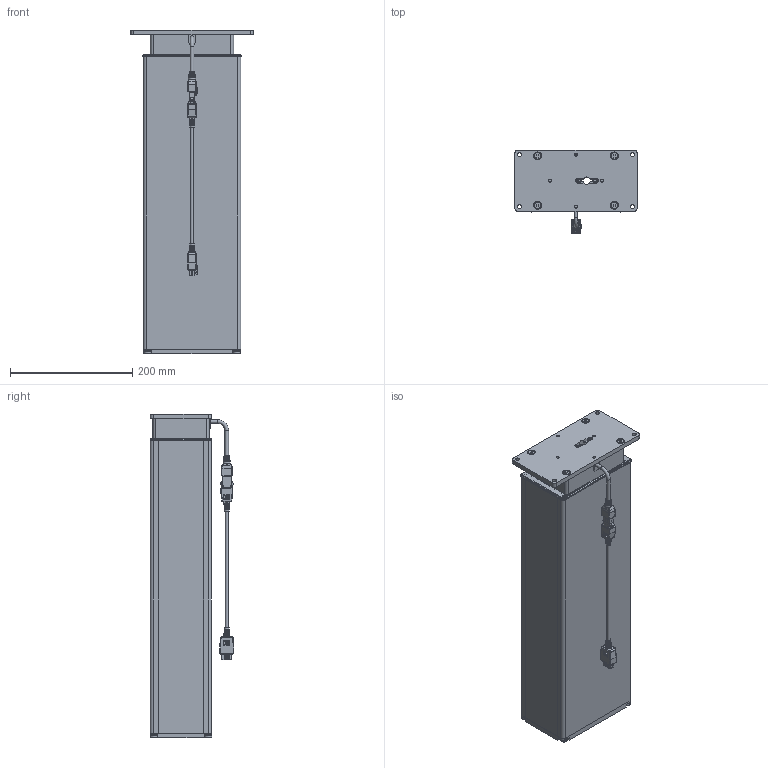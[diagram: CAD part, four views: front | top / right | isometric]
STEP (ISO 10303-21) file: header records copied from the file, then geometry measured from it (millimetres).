
FILE_DESCRIPTION(/* description */ ('Unknown'),/* implementation_level */ '2;1');
FILE_NAME(/* name */ '911.00113_01-eingefahren',/* time_stamp */ '2026-03-27T08:03:36+01:00',/* author */ ('Unknown'),/* organization */ ('Unknown'),/* preprocessor_version */ 'ST-DEVELOPER v20',/* originating_system */ 'Solid Edge',/* authorisation */ 'Unknown');
FILE_SCHEMA (('AUTOMOTIVE_DESIGN {1 0 10303 214 3 1 1}'));
Length unit declared in the file: millimetre
Products named in the file (16): 911.00113; 126.00191; 119.00588; 119.00579; 126.00193; 124.00201_oa_0; 115.00200_oa_1; 110.00113_oa_2; 142.00303; 142.00241; 142.00154; 142.00039; 128.00078; Kabel Motor Sx; 119.00578; 124.00151
Assembly tree (25 placements, depth 2):
  911.00113
    126.00191
    119.00588  x2
    119.00579  x2
    126.00193
    124.00201_oa_0
    115.00200_oa_1
    110.00113_oa_2
    142.00303  x4
    142.00241  x2
    142.00154  x4
    142.00039  x2
    128.00078
    Kabel Motor Sx
    119.00578
    124.00151
Bounding box: 200 x 137.17 x 530 mm (x, y, z)
Volume: 2432527.7 mm3; surface area: 1290273.2 mm2
Topology: 22 solids, 22 shells, 1679 faces, 4386 edges, 2873 vertices
Faces by surface type: plane 1015, cylinder 450, torus 109, bspline 72, cone 27, sphere 6
Full cylindrical faces by diameter (mm): 1.5 x6, 1.82 x6, 2 x4, 2.7 x6, 4 x2, 4.917 x4, 5 x3, 5.5 x2, 6 x11, 6.2 x4, 6.5 x4, 6.6 x4, 6.647 x4, 7 x2, 10 x2, 12 x4, 21 x1
Entity records: 57652 total; most frequent: CARTESIAN_POINT 11596, ORIENTED_EDGE 7708, DIRECTION 7672, EDGE_CURVE 3854, AXIS2_PLACEMENT_3D 2616, VERTEX_POINT 2580, LINE 2440, VECTOR 2440
